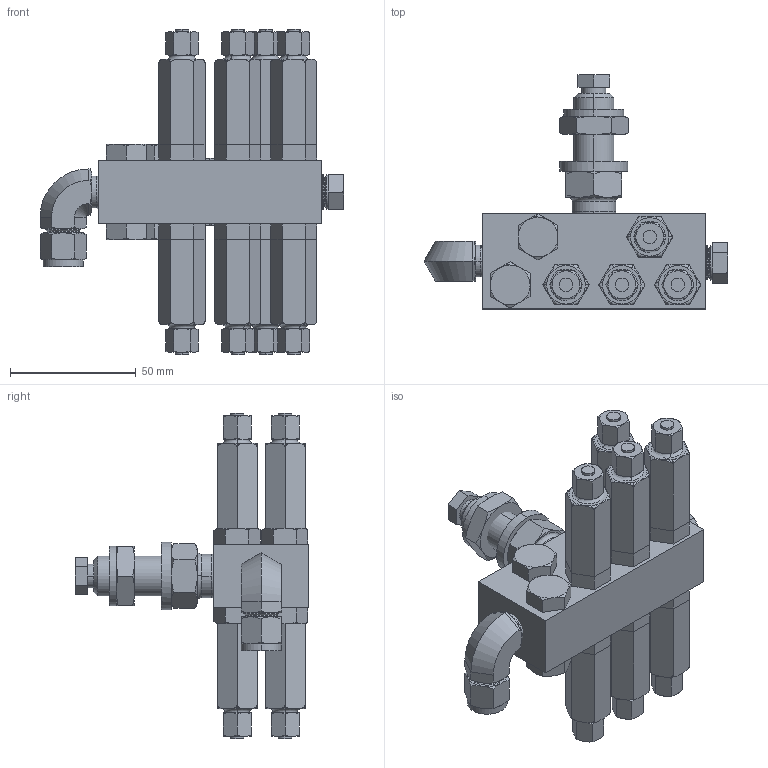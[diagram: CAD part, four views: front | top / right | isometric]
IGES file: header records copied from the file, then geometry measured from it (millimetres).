
Start section:  PTC IGES file: 563646-en-m.igs
Global section: file name: 563646-en-m.igs; native system: Creo Parametric by PTC Inc.; preprocessor: 2019030; author: qusrh3; organization: Unknown; date: 20200101.115000; units: inch
Bounding box: 120.93 x 93.09 x 129.69 mm (x, y, z)
Surface area: 52431.7 mm2 (no closed solid volume)
Topology: 0 solids, 0 shells, 484 faces, 2109 edges, 2109 vertices
Faces by surface type: bspline 271, revolution 213
